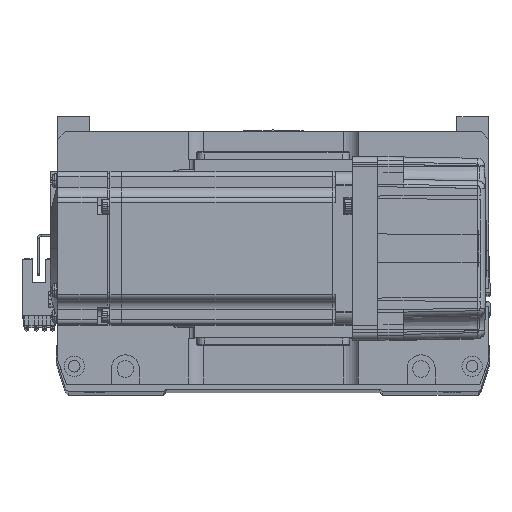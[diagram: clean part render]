
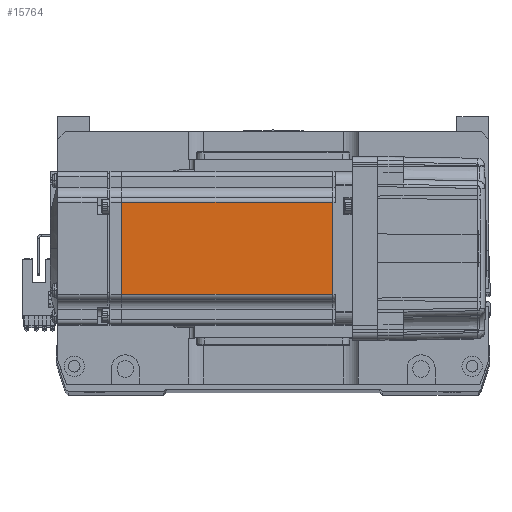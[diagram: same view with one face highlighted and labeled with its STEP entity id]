
A CAD part, top view. The second image highlights one B-rep face of the part: STEP entity #15764.
In plain terms, the highlighted planar face has unit normal (0, 0, 1).
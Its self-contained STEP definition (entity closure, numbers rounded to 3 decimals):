
#1276 = CARTESIAN_POINT ( 'NONE',  ( -6.5, -25., 30. ) ) ;
#3786 = EDGE_CURVE ( 'NONE', #26245, #12076, #22806, .T. ) ;
#4585 = ORIENTED_EDGE ( 'NONE', *, *, #51935, .F. ) ;
#4608 = DIRECTION ( 'NONE',  ( -1., 0., 0. ) ) ;
#9715 = LINE ( 'NONE', #59538, #59338 ) ;
#12076 = VERTEX_POINT ( 'NONE', #29878 ) ;
#13236 = VERTEX_POINT ( 'NONE', #26729 ) ;
#14539 = VECTOR ( 'NONE', #61891, 1000. ) ;
#15764 = ADVANCED_FACE ( 'NONE', ( #31473 ), #44824, .T. ) ;
#16205 = DIRECTION ( 'NONE',  ( 0., 0., 1. ) ) ;
#16456 = ORIENTED_EDGE ( 'NONE', *, *, #3786, .F. ) ;
#18166 = DIRECTION ( 'NONE',  ( 0., -1., 0. ) ) ;
#20255 = LINE ( 'NONE', #42631, #61636 ) ;
#21281 = DIRECTION ( 'NONE',  ( -1., 0., 0. ) ) ;
#21500 = AXIS2_PLACEMENT_3D ( 'NONE', #1276, #16205, #59476 ) ;
#22806 = LINE ( 'NONE', #33532, #14539 ) ;
#24053 = VECTOR ( 'NONE', #4608, 1000. ) ;
#26245 = VERTEX_POINT ( 'NONE', #47629 ) ;
#26729 = CARTESIAN_POINT ( 'NONE',  ( -90.45, -18., 30. ) ) ;
#29878 = CARTESIAN_POINT ( 'NONE',  ( -7.75, -18., 30. ) ) ;
#31406 = EDGE_LOOP ( 'NONE', ( #16456, #51483, #53047, #4585 ) ) ;
#31473 = FACE_OUTER_BOUND ( 'NONE', #31406, .T. ) ;
#33532 = CARTESIAN_POINT ( 'NONE',  ( -7.75, 0., 30. ) ) ;
#41687 = VERTEX_POINT ( 'NONE', #46360 ) ;
#42631 = CARTESIAN_POINT ( 'NONE',  ( -90.45, 0., 30. ) ) ;
#44824 = PLANE ( 'NONE',  #21500 ) ;
#46360 = CARTESIAN_POINT ( 'NONE',  ( -90.45, 18., 30. ) ) ;
#47629 = CARTESIAN_POINT ( 'NONE',  ( -7.75, 18., 30. ) ) ;
#51483 = ORIENTED_EDGE ( 'NONE', *, *, #61971, .T. ) ;
#51935 = EDGE_CURVE ( 'NONE', #12076, #13236, #9715, .T. ) ;
#53047 = ORIENTED_EDGE ( 'NONE', *, *, #57082, .T. ) ;
#56360 = LINE ( 'NONE', #56940, #24053 ) ;
#56940 = CARTESIAN_POINT ( 'NONE',  ( -6.5, 18., 30. ) ) ;
#57082 = EDGE_CURVE ( 'NONE', #41687, #13236, #20255, .T. ) ;
#59338 = VECTOR ( 'NONE', #21281, 1000. ) ;
#59476 = DIRECTION ( 'NONE',  ( 1., 0., 0. ) ) ;
#59538 = CARTESIAN_POINT ( 'NONE',  ( -6.5, -18., 30. ) ) ;
#61636 = VECTOR ( 'NONE', #18166, 1000. ) ;
#61891 = DIRECTION ( 'NONE',  ( 0., -1., 0. ) ) ;
#61971 = EDGE_CURVE ( 'NONE', #26245, #41687, #56360, .T. ) ;
